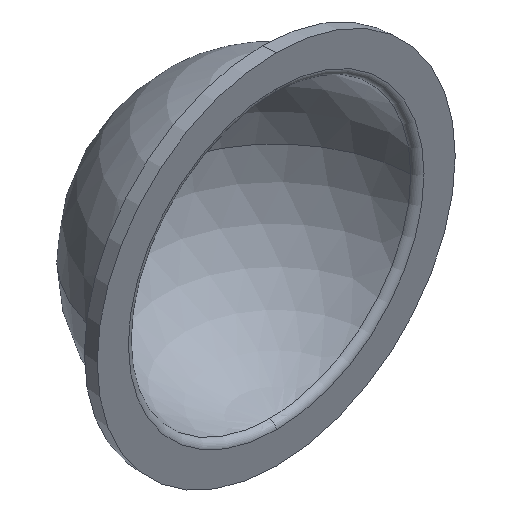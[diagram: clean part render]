
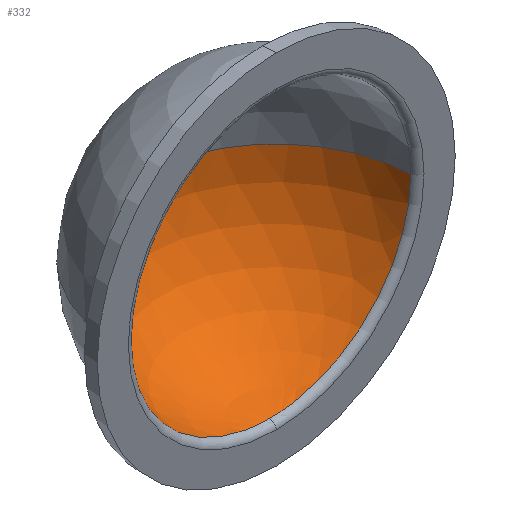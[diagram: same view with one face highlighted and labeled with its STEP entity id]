
A CAD part, isometric view. The second image highlights one B-rep face of the part: STEP entity #332.
In plain terms, the highlighted spherical face has radius 31.25 mm.
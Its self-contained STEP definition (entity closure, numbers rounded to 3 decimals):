
#9 = AXIS2_PLACEMENT_3D ( 'NONE', #199, #131, #162 ) ;
#10 = CARTESIAN_POINT ( 'NONE',  ( 31.217, 1.431, 0. ) ) ;
#30 = EDGE_CURVE ( 'NONE', #175, #261, #386, .T. ) ;
#34 = CIRCLE ( 'NONE', #210, 31.217 ) ;
#36 = DIRECTION ( 'NONE',  ( 1., 0., 0. ) ) ;
#55 = CARTESIAN_POINT ( 'NONE',  ( -31.217, 1.431, 0. ) ) ;
#62 = DIRECTION ( 'NONE',  ( 0., 0., -1. ) ) ;
#73 = CARTESIAN_POINT ( 'NONE',  ( 0., 1.431, -31.217 ) ) ;
#78 = ORIENTED_EDGE ( 'NONE', *, *, #236, .T. ) ;
#79 = CIRCLE ( 'NONE', #298, 31.25 ) ;
#84 = ORIENTED_EDGE ( 'NONE', *, *, #30, .F. ) ;
#101 = CARTESIAN_POINT ( 'NONE',  ( 0., 0., 0. ) ) ;
#115 = DIRECTION ( 'NONE',  ( 0., 0., -1. ) ) ;
#131 = DIRECTION ( 'NONE',  ( 0., 0., 1. ) ) ;
#135 = CARTESIAN_POINT ( 'NONE',  ( 0., 1.431, 0. ) ) ;
#137 = DIRECTION ( 'NONE',  ( 0., 0., -1. ) ) ;
#146 = FACE_OUTER_BOUND ( 'NONE', #189, .T. ) ;
#153 = AXIS2_PLACEMENT_3D ( 'NONE', #376, #194, #62 ) ;
#162 = DIRECTION ( 'NONE',  ( -1., 0., 0. ) ) ;
#170 = ORIENTED_EDGE ( 'NONE', *, *, #380, .T. ) ;
#175 = VERTEX_POINT ( 'NONE', #55 ) ;
#179 = DIRECTION ( 'NONE',  ( -1., 0., 0. ) ) ;
#189 = EDGE_LOOP ( 'NONE', ( #170, #78, #239, #84 ) ) ;
#194 = DIRECTION ( 'NONE',  ( 0., -1., 0. ) ) ;
#199 = CARTESIAN_POINT ( 'NONE',  ( 0., 0., 0. ) ) ;
#210 = AXIS2_PLACEMENT_3D ( 'NONE', #135, #358, #137 ) ;
#230 = CARTESIAN_POINT ( 'NONE',  ( 0., 31.25, 0. ) ) ;
#236 = EDGE_CURVE ( 'NONE', #333, #313, #363, .T. ) ;
#239 = ORIENTED_EDGE ( 'NONE', *, *, #280, .T. ) ;
#261 = VERTEX_POINT ( 'NONE', #230 ) ;
#276 = DIRECTION ( 'NONE',  ( 0., 0., 1. ) ) ;
#280 = EDGE_CURVE ( 'NONE', #313, #261, #79, .T. ) ;
#295 = SPHERICAL_SURFACE ( 'NONE', #9, 31.25 ) ;
#298 = AXIS2_PLACEMENT_3D ( 'NONE', #101, #276, #36 ) ;
#313 = VERTEX_POINT ( 'NONE', #10 ) ;
#332 = ADVANCED_FACE ( 'NONE', ( #146 ), #295, .F. ) ;
#333 = VERTEX_POINT ( 'NONE', #73 ) ;
#358 = DIRECTION ( 'NONE',  ( 0., -1., 0. ) ) ;
#363 = CIRCLE ( 'NONE', #153, 31.217 ) ;
#367 = CARTESIAN_POINT ( 'NONE',  ( 0., 0., 0. ) ) ;
#371 = AXIS2_PLACEMENT_3D ( 'NONE', #367, #115, #179 ) ;
#376 = CARTESIAN_POINT ( 'NONE',  ( 0., 1.431, 0. ) ) ;
#380 = EDGE_CURVE ( 'NONE', #175, #333, #34, .T. ) ;
#386 = CIRCLE ( 'NONE', #371, 31.25 ) ;
